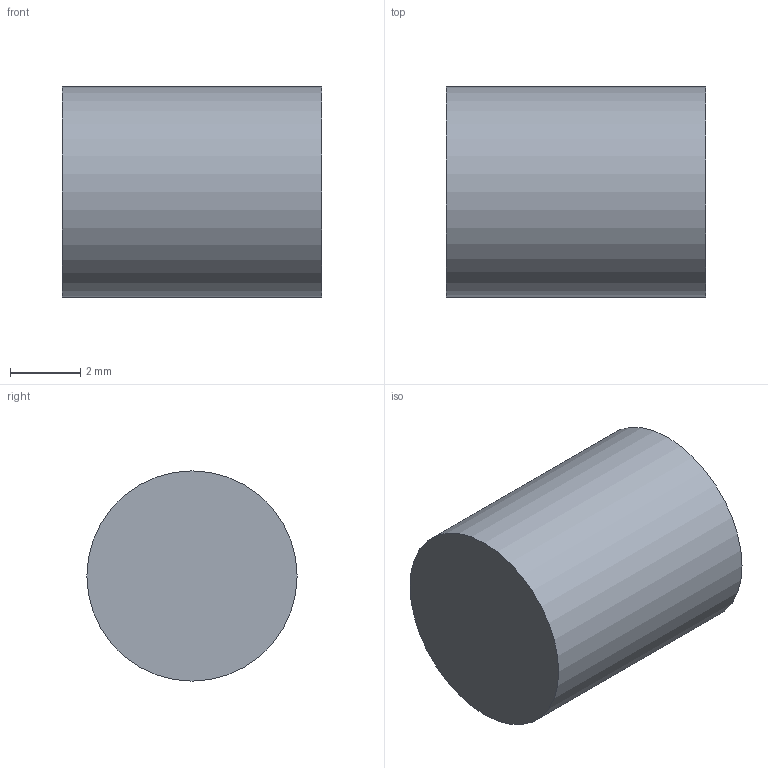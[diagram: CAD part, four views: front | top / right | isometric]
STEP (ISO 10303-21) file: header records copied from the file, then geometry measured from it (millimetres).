
FILE_DESCRIPTION(('Open CASCADE Model'),'2;1');
FILE_NAME('Open CASCADE Shape Model','2026-10-15T19:48:39',('Author'),( 'Open CASCADE'),'Open CASCADE STEP processor 7.9','Open CASCADE 7.9' ,'Unknown');
FILE_SCHEMA(('AUTOMOTIVE_DESIGN { 1 0 10303 214 1 1 1 1 }'));
Length unit declared in the file: millimetre
Products named in the file (1): Open CASCADE STEP translator 7.9 5
Bounding box: 7.4 x 6 x 6 mm (x, y, z)
Volume: 209.2 mm3; surface area: 196 mm2
Topology: 1 solids, 1 shells, 3 faces, 3 edges, 2 vertices
Faces by surface type: plane 2, cylinder 1
Full cylindrical faces by diameter (mm): 6 x1
Entity records: 108 total; most frequent: DIRECTION 19, CARTESIAN_POINT 15, AXIS2_PLACEMENT_3D 6, ORIENTED_EDGE 6, PCURVE 6, DEFINITIONAL_REPRESENTATION 6, LINE 5, VECTOR 5
